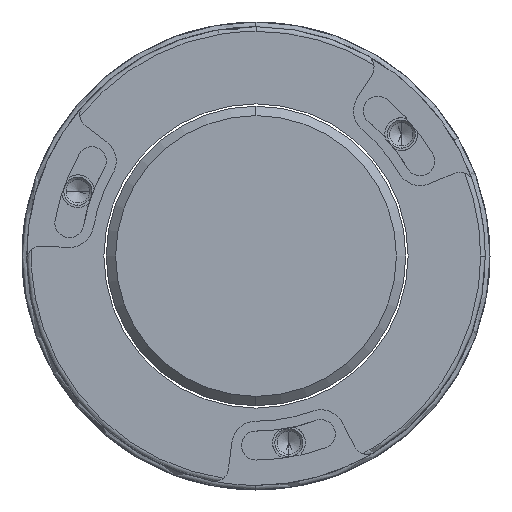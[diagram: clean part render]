
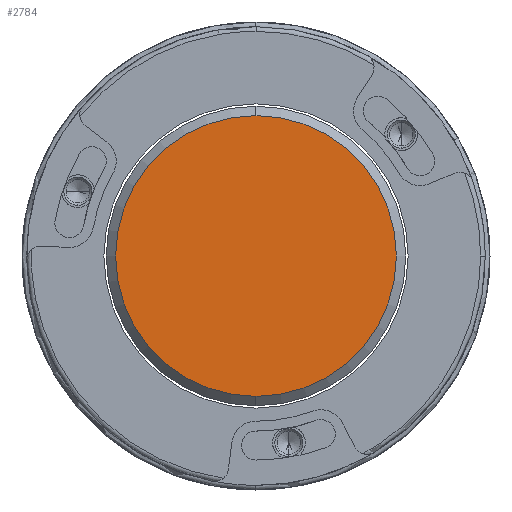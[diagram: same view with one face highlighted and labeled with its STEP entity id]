
A CAD part, left-side view. The second image highlights one B-rep face of the part: STEP entity #2784.
In plain terms, the highlighted planar face has unit normal (-1, 0, 0).
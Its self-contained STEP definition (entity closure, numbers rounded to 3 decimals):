
#387 = DIRECTION ( 'NONE',  ( -1., 0., 0. ) ) ;
#1369 = PLANE ( 'NONE',  #2085 ) ;
#1553 = DIRECTION ( 'NONE',  ( -1., 0., 0. ) ) ;
#1919 = VERTEX_POINT ( 'NONE', #6455 ) ;
#2085 = AXIS2_PLACEMENT_3D ( 'NONE', #7117, #2606, #7238 ) ;
#2606 = DIRECTION ( 'NONE',  ( -1., 0., 0. ) ) ;
#2617 = AXIS2_PLACEMENT_3D ( 'NONE', #4340, #1553, #8068 ) ;
#2784 = ADVANCED_FACE ( 'NONE', ( #7388 ), #1369, .T. ) ;
#3051 = VERTEX_POINT ( 'NONE', #7554 ) ;
#3609 = DIRECTION ( 'NONE',  ( 0., 0., 1. ) ) ;
#4340 = CARTESIAN_POINT ( 'NONE',  ( -10., 0., 0. ) ) ;
#4606 = CIRCLE ( 'NONE', #6898, 15. ) ;
#5763 = EDGE_CURVE ( 'NONE', #1919, #3051, #4606, .T. ) ;
#6383 = ORIENTED_EDGE ( 'NONE', *, *, #5763, .T. ) ;
#6409 = ORIENTED_EDGE ( 'NONE', *, *, #7825, .T. ) ;
#6455 = CARTESIAN_POINT ( 'NONE',  ( -10., 0., 15. ) ) ;
#6897 = CARTESIAN_POINT ( 'NONE',  ( -10., 0., 0. ) ) ;
#6898 = AXIS2_PLACEMENT_3D ( 'NONE', #6897, #387, #3609 ) ;
#7117 = CARTESIAN_POINT ( 'NONE',  ( -10., 0., 0. ) ) ;
#7136 = EDGE_LOOP ( 'NONE', ( #6409, #6383 ) ) ;
#7238 = DIRECTION ( 'NONE',  ( 0., 0., 1. ) ) ;
#7388 = FACE_OUTER_BOUND ( 'NONE', #7136, .T. ) ;
#7554 = CARTESIAN_POINT ( 'NONE',  ( -10., 0., -15. ) ) ;
#7825 = EDGE_CURVE ( 'NONE', #3051, #1919, #8007, .T. ) ;
#8007 = CIRCLE ( 'NONE', #2617, 15. ) ;
#8068 = DIRECTION ( 'NONE',  ( 0., 0., 1. ) ) ;
